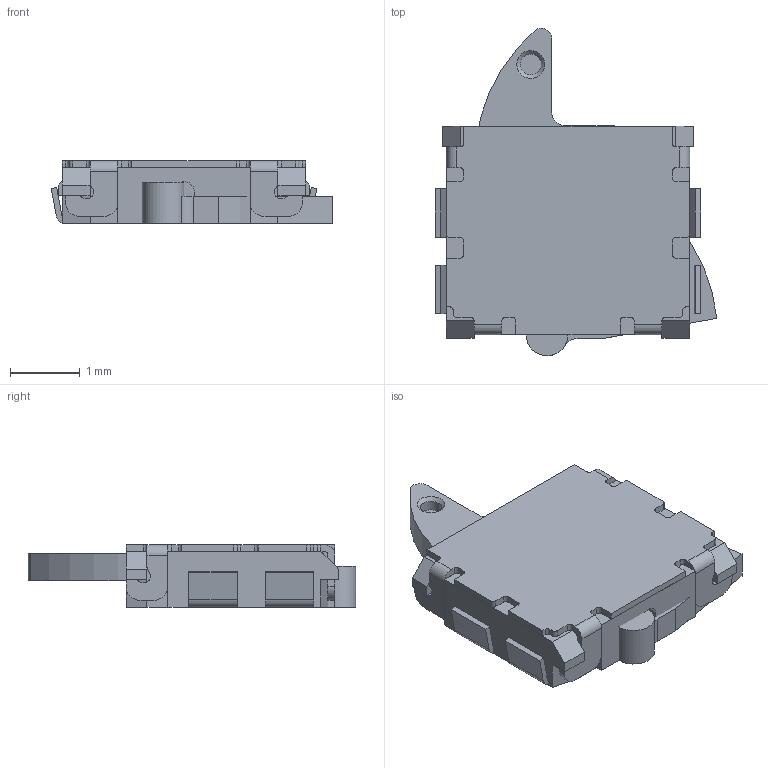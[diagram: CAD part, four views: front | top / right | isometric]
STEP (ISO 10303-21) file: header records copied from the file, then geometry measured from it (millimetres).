
FILE_DESCRIPTION( ( 'Unknown' ), '1' );
FILE_NAME( '//Ntcw022/edgesv/fsw/ユーザ提出用データ/ﾃﾞｨﾃｸﾀｰｽｲｯﾁ/ESE58/ese58l11a-std-sk.stp', 'Unknown', ( 'Unknown' ), ( 'Unknown' ), 'PSStep 10.0', 'Unknown', ' ' );
FILE_SCHEMA( ( 'AUTOMOTIVE_DESIGN { 1 0 10303 214 1 1 1 1 }' ) );
Length unit declared in the file: millimetre
Products named in the file (6): Assem1; sw-131-e58cs1la-no-sk2; sw-131-e58ts1-sk; sw-131-e58lv3-L-sk; sw-131-e58fm5-sk
Bounding box: 4.05 x 4.7 x 0.9 mm (x, y, z)
Volume: 13.6 mm3; surface area: 139.5 mm2
Topology: 10 solids, 10 shells, 408 faces, 1144 edges, 760 vertices
Faces by surface type: plane 276, cylinder 130, cone 2
Full cylindrical faces by diameter (mm): 0.01 x2, 0.3 x2, 0.6 x2, 0.65 x2
Entity records: 8240 total; most frequent: CARTESIAN_POINT 1151, ORIENTED_EDGE 1128, DIRECTION 1117, EDGE_CURVE 564, LINE 431, VECTOR 431, VERTEX_POINT 377, AXIS2_PLACEMENT_3D 343
